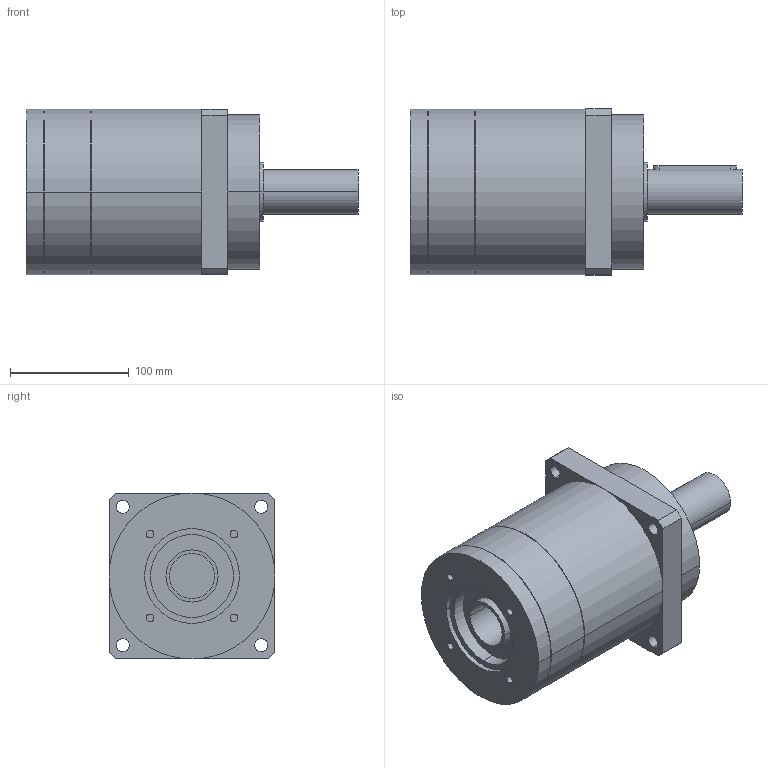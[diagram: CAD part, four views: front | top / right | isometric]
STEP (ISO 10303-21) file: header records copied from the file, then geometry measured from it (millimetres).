
FILE_DESCRIPTION(('CoCreate Modeling STEP Export'),'2;1');
FILE_NAME('GPR150_ig-3-4-5-7_38_B5_38_P02.stp','2014-08-19T16:43:25',(''),(''),'CoCreate Modeling STEP processor for AP214 (Solid Model)','CoCreate Modeling 16.00C 25-Feb-2009 (C) Parametric Technology GmbH','');
FILE_SCHEMA(('AUTOMOTIVE_DESIGN { 1 0 10303 214 1 1 1 1 }'));
Length unit declared in the file: millimetre
Products named in the file (2): GPR150_ig-3-4-5-7_38_B5_38_P02
Assembly tree (1 placements, depth 2):
  GPR150_ig-3-4-5-7_38_B5_38_P02
    GPR150_ig-3-4-5-7_38_B5_38_P02
Bounding box: 280 x 140 x 140 mm (x, y, z)
Volume: 3014737.9 mm3; surface area: 156521.6 mm2
Topology: 1 solids, 1 shells, 88 faces, 223 edges, 153 vertices
Faces by surface type: cylinder 52, plane 30, cone 6
Entity records: 2322 total; most frequent: ORIENTED_EDGE 442, CARTESIAN_POINT 425, DIRECTION 320, EDGE_CURVE 221, VERTEX_POINT 153, AXIS2_PLACEMENT_3D 120, EDGE_LOOP 114, FACE_OUTER_BOUND 88
